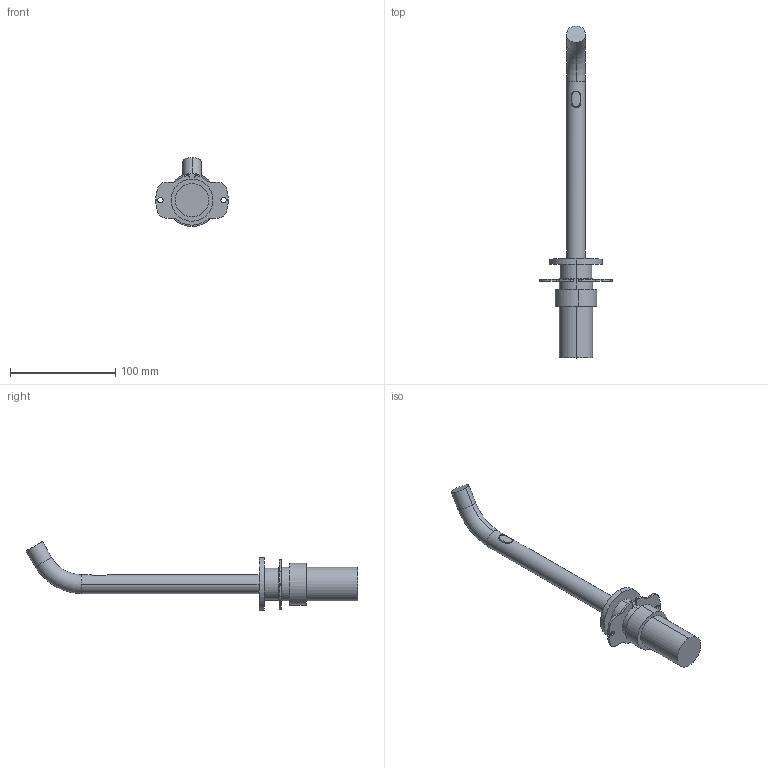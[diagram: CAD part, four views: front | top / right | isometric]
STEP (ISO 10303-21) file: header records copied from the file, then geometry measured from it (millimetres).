
FILE_DESCRIPTION (( 'STEP AP214' ), '1' );
FILE_NAME ('TSL.894 2.STEP', '2025-06-26T09:04:30', ( '' ), ( '' ), 'SwSTEP 2.0', 'SolidWorks 2022', '' );
FILE_SCHEMA (( 'AUTOMOTIVE_DESIGN' ));
Length unit declared in the file: millimetre
Products named in the file (1): TSL.894 2
Bounding box: 68.97 x 315.29 x 65.5 mm (x, y, z)
Volume: 148311.6 mm3; surface area: 31923 mm2
Topology: 1 solids, 1 shells, 95 faces, 248 edges, 162 vertices
Faces by surface type: cylinder 64, plane 25, bspline 4, torus 2
Entity records: 5163 total; most frequent: CARTESIAN_POINT 2104, DIRECTION 530, ORIENTED_EDGE 496, EDGE_CURVE 248, AXIS2_PLACEMENT_3D 212, VERTEX_POINT 162, CIRCLE 120, VECTOR 106
